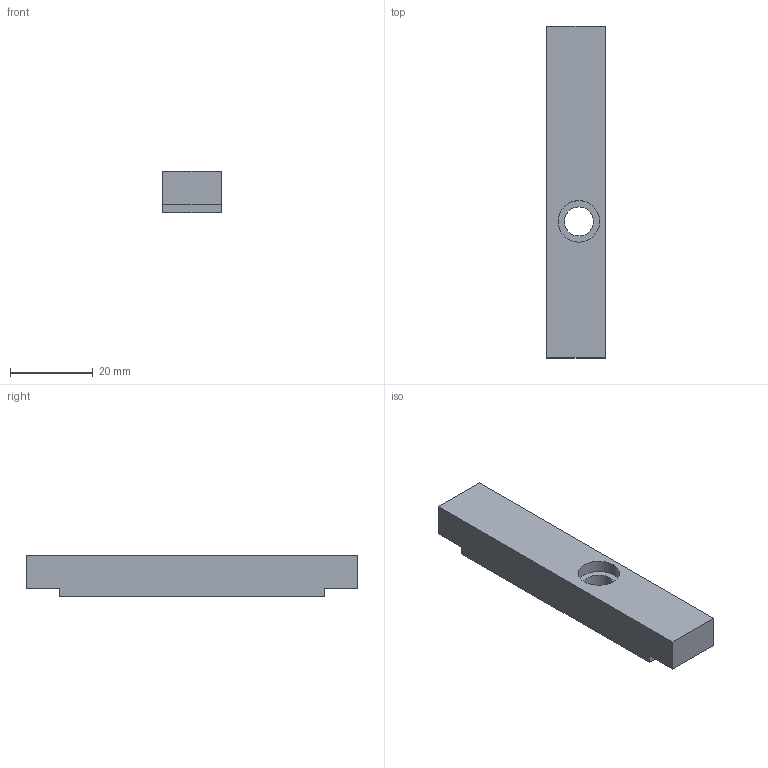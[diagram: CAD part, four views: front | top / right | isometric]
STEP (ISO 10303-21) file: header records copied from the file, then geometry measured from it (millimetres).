
FILE_DESCRIPTION(('Open CASCADE Model'),'2;1');
FILE_NAME('Open CASCADE Shape Model','2026-09-27T02:18:03',('Author'),( 'Open CASCADE'),'Open CASCADE STEP processor 7.9','Open CASCADE 7.9' ,'Unknown');
FILE_SCHEMA(('AUTOMOTIVE_DESIGN { 1 0 10303 214 1 1 1 1 }'));
Length unit declared in the file: millimetre
Products named in the file (1): Open CASCADE STEP translator 7.9 4
Bounding box: 14 x 80 x 10 mm (x, y, z)
Volume: 10247 mm3; surface area: 4227.2 mm2
Topology: 1 solids, 1 shells, 13 faces, 30 edges, 20 vertices
Faces by surface type: plane 11, cylinder 2
Full cylindrical faces by diameter (mm): 7 x1, 10 x1
Entity records: 748 total; most frequent: CARTESIAN_POINT 148, DIRECTION 98, ORIENTED_EDGE 60, PCURVE 60, DEFINITIONAL_REPRESENTATION 60, LINE 58, VECTOR 58, EDGE_CURVE 30
